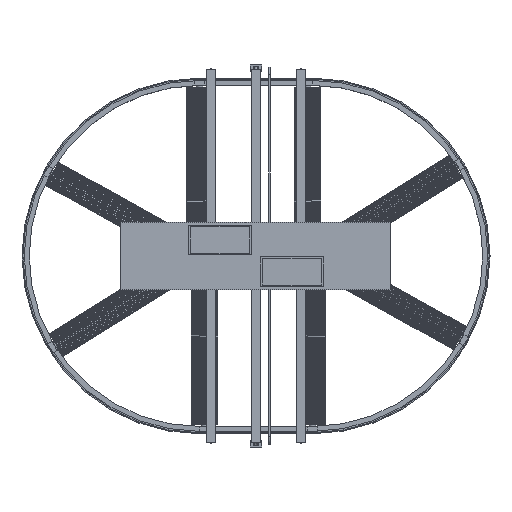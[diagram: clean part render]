
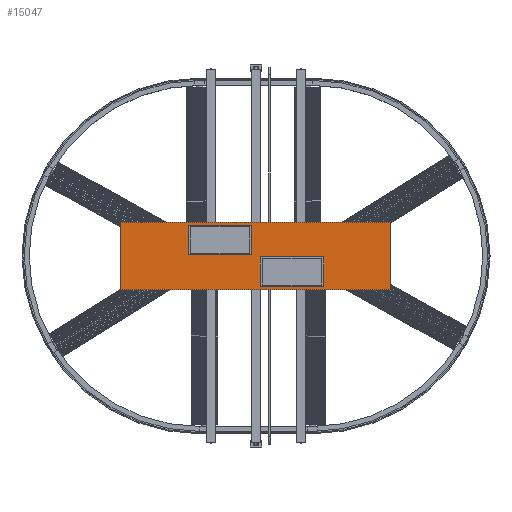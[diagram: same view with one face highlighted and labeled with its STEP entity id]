
A CAD part, top view. The second image highlights one B-rep face of the part: STEP entity #15047.
In plain terms, the highlighted planar face has unit normal (0, 0, 1).
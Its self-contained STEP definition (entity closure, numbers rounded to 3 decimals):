
#14918 = VERTEX_POINT('',#14919);
#14919 = CARTESIAN_POINT('',(-600.,-150.,346.));
#14934 = VERTEX_POINT('',#14935);
#14935 = CARTESIAN_POINT('',(-600.,150.,346.));
#14941 = EDGE_CURVE('',#14918,#14934,#14942,.T.);
#14942 = LINE('',#14943,#14944);
#14943 = CARTESIAN_POINT('',(-600.,-150.,346.));
#14944 = VECTOR('',#14945,1.);
#14945 = DIRECTION('',(0.,1.,0.));
#14958 = VERTEX_POINT('',#14959);
#14959 = CARTESIAN_POINT('',(600.,-150.,346.));
#14974 = VERTEX_POINT('',#14975);
#14975 = CARTESIAN_POINT('',(600.,150.,346.));
#14981 = EDGE_CURVE('',#14958,#14974,#14982,.T.);
#14982 = LINE('',#14983,#14984);
#14983 = CARTESIAN_POINT('',(600.,-150.,346.));
#14984 = VECTOR('',#14985,1.);
#14985 = DIRECTION('',(0.,1.,0.));
#15002 = EDGE_CURVE('',#14918,#14958,#15003,.T.);
#15003 = LINE('',#15004,#15005);
#15004 = CARTESIAN_POINT('',(-600.,-150.,346.));
#15005 = VECTOR('',#15006,1.);
#15006 = DIRECTION('',(1.,0.,0.));
#15024 = EDGE_CURVE('',#14934,#14974,#15025,.T.);
#15025 = LINE('',#15026,#15027);
#15026 = CARTESIAN_POINT('',(-600.,150.,346.));
#15027 = VECTOR('',#15028,1.);
#15028 = DIRECTION('',(1.,0.,0.));
#15047 = ADVANCED_FACE('',(#15048),#15054,.T.);
#15048 = FACE_BOUND('',#15049,.T.);
#15049 = EDGE_LOOP('',(#15050,#15051,#15052,#15053));
#15050 = ORIENTED_EDGE('',*,*,#14941,.F.);
#15051 = ORIENTED_EDGE('',*,*,#15002,.T.);
#15052 = ORIENTED_EDGE('',*,*,#14981,.T.);
#15053 = ORIENTED_EDGE('',*,*,#15024,.F.);
#15054 = PLANE('',#15055);
#15055 = AXIS2_PLACEMENT_3D('',#15056,#15057,#15058);
#15056 = CARTESIAN_POINT('',(-600.,-150.,346.));
#15057 = DIRECTION('',(0.,0.,1.));
#15058 = DIRECTION('',(1.,0.,0.));
